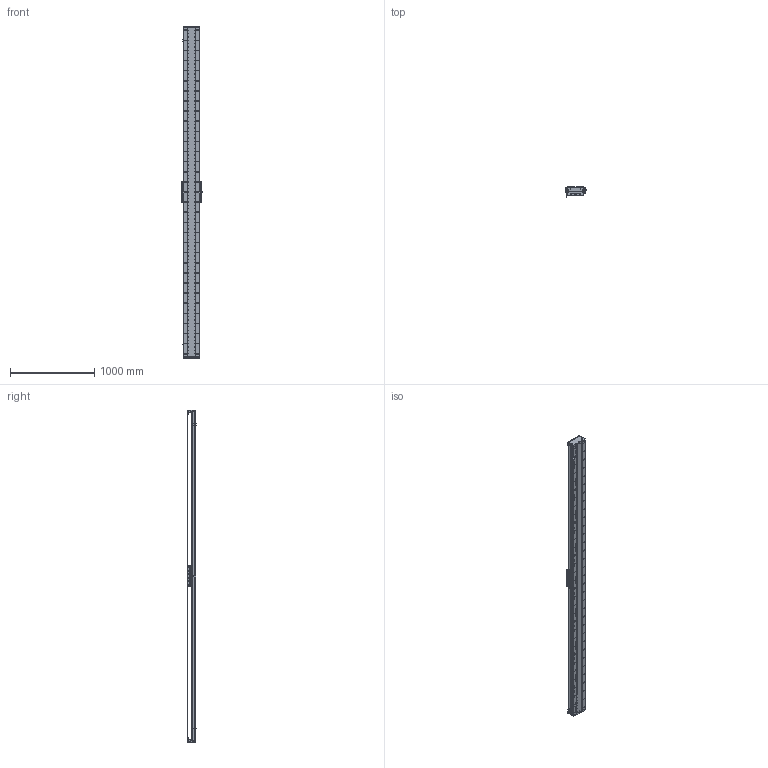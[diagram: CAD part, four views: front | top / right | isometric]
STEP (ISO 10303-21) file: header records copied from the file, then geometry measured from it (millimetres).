
FILE_DESCRIPTION (( 'STEP AP203' ), '1' );
FILE_NAME ('DA-C195-C3-T3600-C010-0.2 眻盄萇儂.STEP', '2025-08-15T01:25:11', ( '' ), ( '' ), 'SwSTEP 2.0', 'SolidWorks 2019', '' );
FILE_SCHEMA (( 'CONFIG_CONTROL_DESIGN' ));
Length unit declared in the file: millimetre
Products named in the file (15): PM-T45ㄗ侂狟ㄘ; DA-C195-C3-T3600-C010-0.2 眻盄萇儂; 葩璃 DA95-GT-T-00; LMT黍杅芛; MS200 棠掑喜S315-T240; DA165-GYP-00 光电感应片(默认); IU-CU195-L-00 菁釱(L3900); DA195詩湍裔啣; IU-CU195-L 菁釱絳寢; DA-C195-GD-DB-H-00 傷啣; DA95-HXJ-00 遣喳砎蝶; DA195詩湍嶺輸; DA195詩湍郪璃; CU195-C3賑輸-俋楷; DA195詩湍菜輸
Assembly tree (29 placements, depth 3):
  DA-C195-C3-T3600-C010-0.2 眻盄萇儂
    DA195詩湍郪璃
      DA195詩湍菜輸  x2
      DA195詩湍裔啣
      DA195詩湍嶺輸  x2
      DA95-HXJ-00 遣喳砎蝶  x8
      DA-C195-GD-DB-H-00 傷啣  x2
    IU-CU195-L 菁釱絳寢
      IU-CU195-L-00 菁釱(L3900)
      葩璃 DA95-GT-T-00  x4
    LMT黍杅芛
    MS200 棠掑喜S315-T240
    PM-T45ㄗ侂狟ㄘ  x3
    DA165-GYP-00 光电感应片(默认)
    CU195-C3賑輸-俋楷
Bounding box: 248 x 115.45 x 3940 mm (x, y, z)
Volume: 22070925.7 mm3; surface area: 6581247.7 mm2
Topology: 86 solids, 118 shells, 4886 faces, 14319 edges, 9105 vertices
Faces by surface type: cylinder 2898, plane 1386, cone 514, torus 52, sphere 36
Entity records: 168275 total; most frequent: CARTESIAN_POINT 49192, ORIENTED_EDGE 25554, DIRECTION 23566, EDGE_CURVE 12777, AXIS2_PLACEMENT_3D 8881, VERTEX_POINT 8307, VECTOR 5804, LINE 5804
